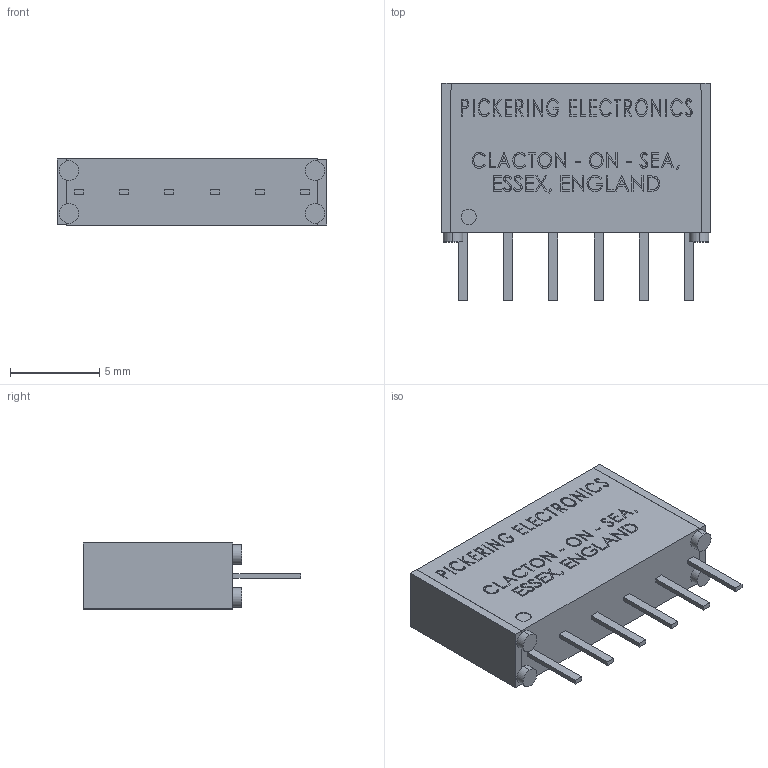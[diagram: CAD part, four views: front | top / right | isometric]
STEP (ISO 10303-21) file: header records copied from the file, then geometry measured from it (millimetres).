
FILE_DESCRIPTION (( 'STEP AP203' ), '1' );
FILE_NAME ('109-2-A-x-xx.STEP', '2010-06-29T10:54:39', ( ' ' ), ( '' ), 'SwSTEP 2.0', 'SolidWorks 2009', '' );
FILE_SCHEMA (( 'CONFIG_CONTROL_DESIGN' ));
Products named in the file (1): 109-2-A-x-xx
Bounding box: 15.1 x 12.2 x 3.7 mm (x, y, z)
Volume: 467.3 mm3; surface area: 611.4 mm2
Topology: 7 solids, 7 shells, 1021 faces, 2685 edges, 1790 vertices
Faces by surface type: plane 722, bspline 289, cylinder 10
Entity records: 46982 total; most frequent: CARTESIAN_POINT 23618, ORIENTED_EDGE 5370, DIRECTION 3593, EDGE_CURVE 2685, VECTOR 2087, LINE 2087, VERTEX_POINT 1790, EDGE_LOOP 1133
